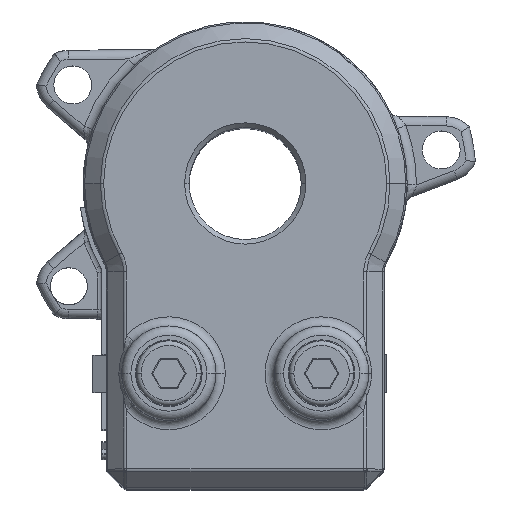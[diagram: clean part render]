
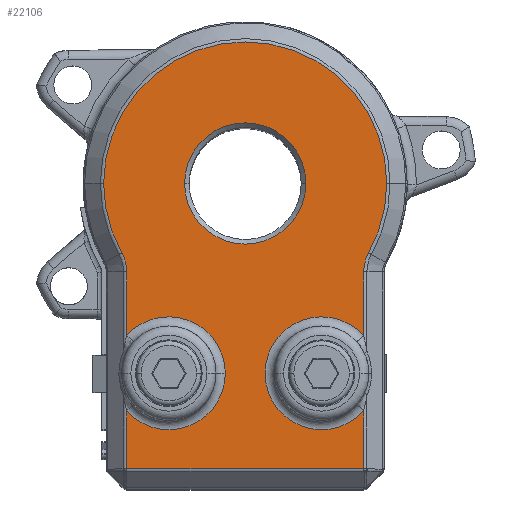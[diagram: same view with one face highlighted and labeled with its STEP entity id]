
A CAD part, top view. The second image highlights one B-rep face of the part: STEP entity #22106.
In plain terms, the highlighted planar face has unit normal (0, 0, 1).
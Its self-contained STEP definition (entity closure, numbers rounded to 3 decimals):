
#160 = CARTESIAN_POINT ( 'NONE',  ( 0., 0., 63. ) ) ;
#161 = DIRECTION ( 'NONE',  ( 0., 0., -1. ) ) ;
#162 = DIRECTION ( 'NONE',  ( 1., 0., 0. ) ) ;
#235 = CARTESIAN_POINT ( 'NONE',  ( -8.25, -20.5, 63. ) ) ;
#236 = DIRECTION ( 'NONE',  ( 0., 0., -1. ) ) ;
#237 = DIRECTION ( 'NONE',  ( 1., 0., 0. ) ) ;
#285 = CARTESIAN_POINT ( 'NONE',  ( 0., 0., 63. ) ) ;
#286 = DIRECTION ( 'NONE',  ( 0., 0., 1. ) ) ;
#287 = DIRECTION ( 'NONE',  ( 1., 0., 0. ) ) ;
#298 = CARTESIAN_POINT ( 'NONE',  ( 0., 0., 63. ) ) ;
#300 = DIRECTION ( 'NONE',  ( 0., 0., 1. ) ) ;
#301 = DIRECTION ( 'NONE',  ( 1., 0., 0. ) ) ;
#1417 = EDGE_CURVE ( 'NONE', #2139, #2138, #20288, .T. ) ;
#1445 = EDGE_CURVE ( 'NONE', #31255, #31491, #20323, .T. ) ;
#1461 = EDGE_CURVE ( 'NONE', #31169, #31205, #20337, .T. ) ;
#1465 = EDGE_CURVE ( 'NONE', #31270, #31169, #20340, .T. ) ;
#2138 = VERTEX_POINT ( 'NONE', #12027 ) ;
#2139 = VERTEX_POINT ( 'NONE', #12028 ) ;
#4891 = ORIENTED_EDGE ( 'NONE', *, *, #9021, .T. ) ;
#4892 = ORIENTED_EDGE ( 'NONE', *, *, #9017, .T. ) ;
#4893 = ORIENTED_EDGE ( 'NONE', *, *, #9019, .T. ) ;
#4894 = ORIENTED_EDGE ( 'NONE', *, *, #1445, .T. ) ;
#4895 = ORIENTED_EDGE ( 'NONE', *, *, #9023, .T. ) ;
#4896 = ORIENTED_EDGE ( 'NONE', *, *, #9020, .T. ) ;
#4897 = ORIENTED_EDGE ( 'NONE', *, *, #9022, .T. ) ;
#4898 = ORIENTED_EDGE ( 'NONE', *, *, #1461, .T. ) ;
#4899 = ORIENTED_EDGE ( 'NONE', *, *, #1465, .T. ) ;
#4900 = ORIENTED_EDGE ( 'NONE', *, *, #9026, .T. ) ;
#4901 = ORIENTED_EDGE ( 'NONE', *, *, #9024, .T. ) ;
#4902 = ORIENTED_EDGE ( 'NONE', *, *, #9036, .T. ) ;
#4903 = ORIENTED_EDGE ( 'NONE', *, *, #9025, .T. ) ;
#4904 = ORIENTED_EDGE ( 'NONE', *, *, #9028, .T. ) ;
#4905 = ORIENTED_EDGE ( 'NONE', *, *, #1417, .T. ) ;
#9017 = EDGE_CURVE ( 'NONE', #20886, #31445, #16291, .T. ) ;
#9019 = EDGE_CURVE ( 'NONE', #31491, #20886, #16304, .T. ) ;
#9020 = EDGE_CURVE ( 'NONE', #25007, #25013, #16306, .T. ) ;
#9021 = EDGE_CURVE ( 'NONE', #31445, #31506, #16294, .T. ) ;
#9022 = EDGE_CURVE ( 'NONE', #31205, #25007, #16309, .T. ) ;
#9023 = EDGE_CURVE ( 'NONE', #25013, #31255, #16302, .T. ) ;
#9024 = EDGE_CURVE ( 'NONE', #31440, #20715, #16310, .T. ) ;
#9025 = EDGE_CURVE ( 'NONE', #31506, #25008, #16312, .T. ) ;
#9026 = EDGE_CURVE ( 'NONE', #20715, #31270, #16316, .T. ) ;
#9028 = EDGE_CURVE ( 'NONE', #2138, #2139, #16318, .T. ) ;
#9036 = EDGE_CURVE ( 'NONE', #25008, #31440, #16331, .T. ) ;
#9143 = AXIS2_PLACEMENT_3D ( 'NONE', #160, #161, #162 ) ;
#10302 = CARTESIAN_POINT ( 'NONE',  ( -13.332, -7.492, 63. ) ) ;
#10307 = CARTESIAN_POINT ( 'NONE',  ( 12.793, -24.571, 63. ) ) ;
#10311 = CARTESIAN_POINT ( 'NONE',  ( -12.793, -9.552, 63. ) ) ;
#12027 = CARTESIAN_POINT ( 'NONE',  ( -6.55, 0., 63. ) ) ;
#12028 = CARTESIAN_POINT ( 'NONE',  ( 6.55, 0., 63. ) ) ;
#16291 = LINE ( 'NONE', #27206, #16296 ) ;
#16294 = LINE ( 'NONE', #27216, #16303 ) ;
#16296 = VECTOR ( 'NONE', #27207, 1000. ) ;
#16302 = LINE ( 'NONE', #27221, #16305 ) ;
#16303 = VECTOR ( 'NONE', #27217, 1000. ) ;
#16304 = CIRCLE ( 'NONE', #18886, 6.1 ) ;
#16305 = VECTOR ( 'NONE', #27222, 1000. ) ;
#16306 = CIRCLE ( 'NONE', #18887, 4.207 ) ;
#16309 = CIRCLE ( 'NONE', #18889, 15.293 ) ;
#16310 = LINE ( 'NONE', #27223, #16311 ) ;
#16311 = VECTOR ( 'NONE', #27224, 1000. ) ;
#16312 = LINE ( 'NONE', #27225, #16313 ) ;
#16313 = VECTOR ( 'NONE', #27226, 1000. ) ;
#16316 = CIRCLE ( 'NONE', #18890, 4.207 ) ;
#16318 = CIRCLE ( 'NONE', #18891, 6.55 ) ;
#16331 = CIRCLE ( 'NONE', #18894, 6.1 ) ;
#18324 = AXIS2_PLACEMENT_3D ( 'NONE', #235, #236, #237 ) ;
#18339 = AXIS2_PLACEMENT_3D ( 'NONE', #285, #286, #287 ) ;
#18343 = AXIS2_PLACEMENT_3D ( 'NONE', #298, #300, #301 ) ;
#18886 = AXIS2_PLACEMENT_3D ( 'NONE', #27200, #27211, #27212 ) ;
#18887 = AXIS2_PLACEMENT_3D ( 'NONE', #27203, #27214, #27215 ) ;
#18889 = AXIS2_PLACEMENT_3D ( 'NONE', #27210, #27219, #27220 ) ;
#18890 = AXIS2_PLACEMENT_3D ( 'NONE', #27213, #27227, #27228 ) ;
#18891 = AXIS2_PLACEMENT_3D ( 'NONE', #27218, #27231, #27232 ) ;
#18894 = AXIS2_PLACEMENT_3D ( 'NONE', #27243, #27250, #27251 ) ;
#19211 = AXIS2_PLACEMENT_3D ( 'NONE', #32248, #32251, #32252 ) ;
#19759 = EDGE_LOOP ( 'NONE', ( #4903, #4902, #4901, #4900, #4899, #4898, #4897, #4896, #4895, #4894, #4893, #4892, #4891 ) ) ;
#19762 = EDGE_LOOP ( 'NONE', ( #4905, #4904 ) ) ;
#20288 = CIRCLE ( 'NONE', #9143, 6.55 ) ;
#20323 = CIRCLE ( 'NONE', #18324, 6.1 ) ;
#20337 = CIRCLE ( 'NONE', #18339, 15.293 ) ;
#20340 = CIRCLE ( 'NONE', #18343, 15.293 ) ;
#20715 = VERTEX_POINT ( 'NONE', #27689 ) ;
#20886 = VERTEX_POINT ( 'NONE', #27723 ) ;
#21214 = FACE_BOUND ( 'NONE', #19762, .T. ) ;
#21222 = FACE_OUTER_BOUND ( 'NONE', #19759, .T. ) ;
#22106 = ADVANCED_FACE ( 'NONE', ( #21214, #21222 ), #32249, .T. ) ;
#25007 = VERTEX_POINT ( 'NONE', #10302 ) ;
#25008 = VERTEX_POINT ( 'NONE', #10307 ) ;
#25013 = VERTEX_POINT ( 'NONE', #10311 ) ;
#25528 = CARTESIAN_POINT ( 'NONE',  ( 12.793, -16.429, 63. ) ) ;
#25533 = CARTESIAN_POINT ( 'NONE',  ( -12.793, -30.793, 63. ) ) ;
#25579 = CARTESIAN_POINT ( 'NONE',  ( -2.15, -20.5, 63. ) ) ;
#25594 = CARTESIAN_POINT ( 'NONE',  ( 12.793, -30.793, 63. ) ) ;
#27200 = CARTESIAN_POINT ( 'NONE',  ( -8.25, -20.5, 63. ) ) ;
#27203 = CARTESIAN_POINT ( 'NONE',  ( -17., -9.552, 63. ) ) ;
#27206 = CARTESIAN_POINT ( 'NONE',  ( -12.793, -9.552, 63. ) ) ;
#27207 = DIRECTION ( 'NONE',  ( 0., -1., 0. ) ) ;
#27210 = CARTESIAN_POINT ( 'NONE',  ( 0., 0., 63. ) ) ;
#27211 = DIRECTION ( 'NONE',  ( 0., 0., -1. ) ) ;
#27212 = DIRECTION ( 'NONE',  ( 1., 0., 0. ) ) ;
#27213 = CARTESIAN_POINT ( 'NONE',  ( 17., -9.552, 63. ) ) ;
#27214 = DIRECTION ( 'NONE',  ( 0., 0., -1. ) ) ;
#27215 = DIRECTION ( 'NONE',  ( 1., 0., 0. ) ) ;
#27216 = CARTESIAN_POINT ( 'NONE',  ( 17., -30.793, 63. ) ) ;
#27217 = DIRECTION ( 'NONE',  ( 1., 0., 0. ) ) ;
#27218 = CARTESIAN_POINT ( 'NONE',  ( 0., 0., 63. ) ) ;
#27219 = DIRECTION ( 'NONE',  ( 0., 0., 1. ) ) ;
#27220 = DIRECTION ( 'NONE',  ( 1., 0., 0. ) ) ;
#27221 = CARTESIAN_POINT ( 'NONE',  ( -12.793, -9.552, 63. ) ) ;
#27222 = DIRECTION ( 'NONE',  ( 0., -1., 0. ) ) ;
#27223 = CARTESIAN_POINT ( 'NONE',  ( 12.793, -9.552, 63. ) ) ;
#27224 = DIRECTION ( 'NONE',  ( 0., 1., 0. ) ) ;
#27225 = CARTESIAN_POINT ( 'NONE',  ( 12.793, -9.552, 63. ) ) ;
#27226 = DIRECTION ( 'NONE',  ( 0., 1., 0. ) ) ;
#27227 = DIRECTION ( 'NONE',  ( 0., 0., -1. ) ) ;
#27228 = DIRECTION ( 'NONE',  ( 1., 0., 0. ) ) ;
#27231 = DIRECTION ( 'NONE',  ( 0., 0., -1. ) ) ;
#27232 = DIRECTION ( 'NONE',  ( 1., 0., 0. ) ) ;
#27243 = CARTESIAN_POINT ( 'NONE',  ( 8.25, -20.5, 63. ) ) ;
#27250 = DIRECTION ( 'NONE',  ( 0., 0., -1. ) ) ;
#27251 = DIRECTION ( 'NONE',  ( 1., 0., 0. ) ) ;
#27689 = CARTESIAN_POINT ( 'NONE',  ( 12.793, -9.552, 63. ) ) ;
#27723 = CARTESIAN_POINT ( 'NONE',  ( -12.793, -24.571, 63. ) ) ;
#29003 = CARTESIAN_POINT ( 'NONE',  ( 15.293, 0., 63. ) ) ;
#29039 = CARTESIAN_POINT ( 'NONE',  ( -15.293, 0., 63. ) ) ;
#29089 = CARTESIAN_POINT ( 'NONE',  ( -12.793, -16.429, 63. ) ) ;
#29104 = CARTESIAN_POINT ( 'NONE',  ( 13.332, -7.492, 63. ) ) ;
#31169 = VERTEX_POINT ( 'NONE', #29003 ) ;
#31205 = VERTEX_POINT ( 'NONE', #29039 ) ;
#31255 = VERTEX_POINT ( 'NONE', #29089 ) ;
#31270 = VERTEX_POINT ( 'NONE', #29104 ) ;
#31440 = VERTEX_POINT ( 'NONE', #25528 ) ;
#31445 = VERTEX_POINT ( 'NONE', #25533 ) ;
#31491 = VERTEX_POINT ( 'NONE', #25579 ) ;
#31506 = VERTEX_POINT ( 'NONE', #25594 ) ;
#32248 = CARTESIAN_POINT ( 'NONE',  ( 17., -9.552, 63. ) ) ;
#32249 = PLANE ( 'NONE',  #19211 ) ;
#32251 = DIRECTION ( 'NONE',  ( 0., 0., 1. ) ) ;
#32252 = DIRECTION ( 'NONE',  ( 1., 0., 0. ) ) ;
